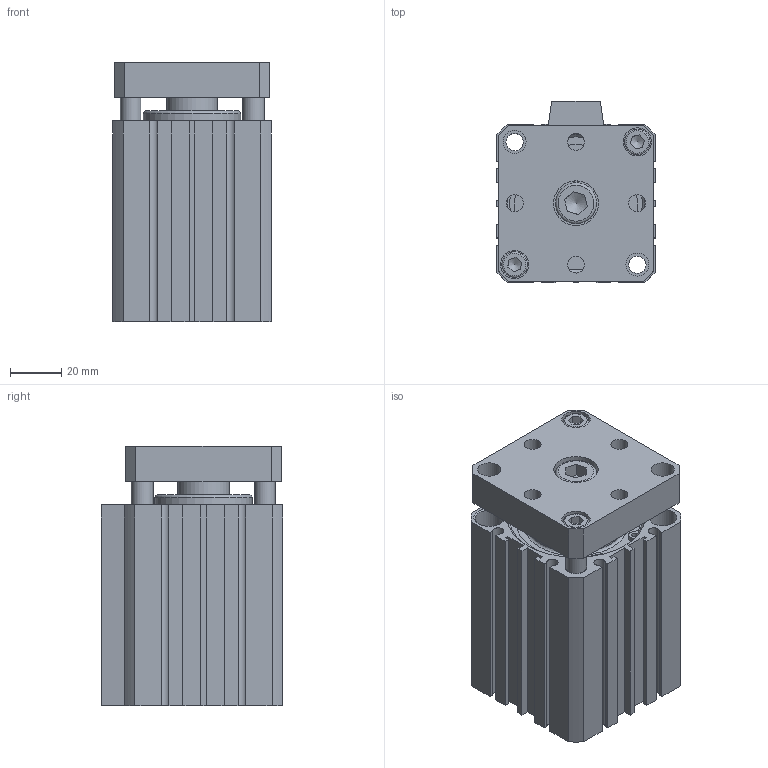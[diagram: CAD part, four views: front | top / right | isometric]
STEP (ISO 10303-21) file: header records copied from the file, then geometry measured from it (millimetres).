
FILE_DESCRIPTION((''),'2;1');
FILE_NAME('I:\3D電子目錄\氣缸\JTD\JTD\JTD50\JTD50x50.stp','2007-08-14T19:27:25',('Administrator'),(''),'Autodesk Inventor 11','Autodesk Inventor 11','');
FILE_SCHEMA(('AUTOMOTIVE_DESIGN { 1 0 10303 214 1 1 1 1 }'));
Length unit declared in the file: millimetre
Products named in the file (5): JTD50; R 形環 52; ISO 4762 M10 x 16; ISO 4762 M6 x 20
Assembly tree (6 placements, depth 2):
  JTD50
    JTD50
    R 形環 52  x2
    ISO 4762 M10 x 16
    ISO 4762 M6 x 20  x2
Bounding box: 62 x 71 x 101.6 mm (x, y, z)
Volume: 316812.1 mm3; surface area: 70516.5 mm2
Topology: 6 solids, 6 shells, 228 faces, 548 edges, 360 vertices
Faces by surface type: plane 135, cylinder 58, bspline 16, cone 14, torus 5
Full cylindrical faces by diameter (mm): 2.3 x4, 2.7 x2, 6 x2, 6.8 x2, 8 x2, 8.5 x3, 9 x2, 10 x3, 11 x4, 16 x1, 20 x1, 37 x1, 38 x1, 52 x4, 55 x2
Entity records: 5925 total; most frequent: CARTESIAN_POINT 1242, DIRECTION 938, ORIENTED_EDGE 844, EDGE_CURVE 422, AXIS2_PLACEMENT_3D 331, EDGE_LOOP 314, VERTEX_POINT 313, VECTOR 276
